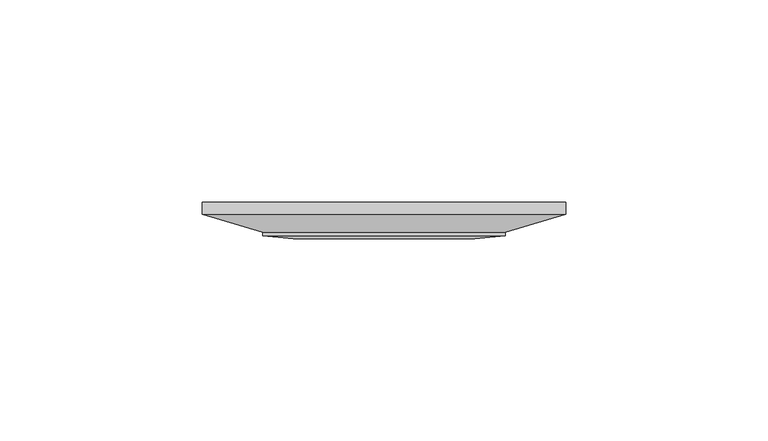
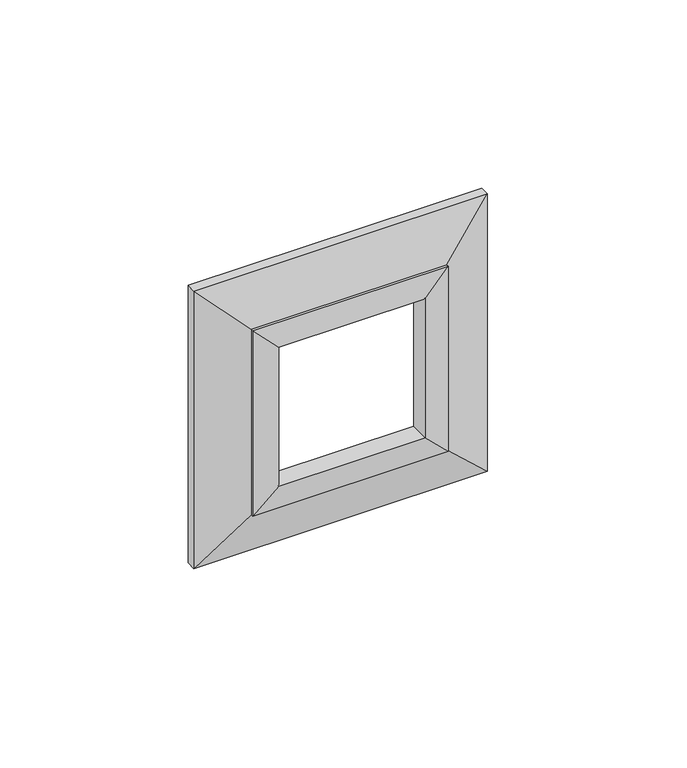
"""IFC4 building model written with IfcOpenShell, lengths in millimetres: proxy geometry."""

from ifc_helpers import new_model, si_unit, origin, place, context, project, spatial, faceted_brep, source, transform, mapped, element, save


def electrical_fixtures_7a4067e5(model_context):
    return source(origin(), model_context, "Body", "Brep", [
        faceted_brep([(22.5, -3.0, -22.5), (22.5, -9.0, -22.5), (22.5, -9.0, 22.5), (22.5, -3.0, 22.5), (-22.5, -9.0, 22.5), (-22.5, -3.0, 22.5), (-22.5, -9.0, -22.5), (-22.5, -3.0, -22.5), (45.0, 0.0, -45.0), (-45.0, 0.0, -45.0), (-45.0, 0.0, 45.0), (45.0, 0.0, 45.0), (35.5, 0.0, 35.5), (-35.5, 0.0, 35.5), (-35.5, 0.0, -35.5), (35.5, 0.0, -35.5), (45.0, -3.0228771, -45.0), (45.0, -3.0228771, 45.0), (30.0116526, -7.5, -30.0116526), (30.0116526, -7.5, 30.0116526), (30.0116526, -8.3, -30.0116526), (30.0116526, -8.3, 30.0116526), (-45.0, -3.0228771, 45.0), (-30.0116526, -7.5, 30.0116526), (-30.0116526, -8.3, 30.0116526), (-45.0, -3.0228771, -45.0), (-30.0116526, -7.5, -30.0116526), (-30.0116526, -8.3, -30.0116526), (35.5, -3.0, -35.5), (35.5, -3.0, 35.5), (-35.5, -3.0, 35.5), (-35.5, -3.0, -35.5)], [[[0, 1, 2, 3]], [[3, 2, 4, 5]], [[5, 4, 6, 7]], [[7, 6, 1, 0]], [[8, 9, 10, 11], [12, 13, 14, 15]], [[16, 8, 11, 17]], [[18, 16, 17, 19]], [[20, 18, 19, 21]], [[1, 20, 21, 2]], [[17, 11, 10, 22]], [[19, 17, 22, 23]], [[21, 19, 23, 24]], [[2, 21, 24, 4]], [[22, 10, 9, 25]], [[23, 22, 25, 26]], [[24, 23, 26, 27]], [[4, 24, 27, 6]], [[25, 9, 8, 16]], [[26, 25, 16, 18]], [[27, 26, 18, 20]], [[6, 27, 20, 1]], [[15, 28, 29, 12]], [[12, 29, 30, 13]], [[13, 30, 31, 14]], [[28, 31, 30, 29], [3, 5, 7, 0]], [[14, 31, 28, 15]]]),
    ])


if __name__ == "__main__":
    model = new_model("IFC4")
    model_context = context("Model", 3, world=origin())
    ifc_project = project(units=[si_unit("LENGTHUNIT", "METRE", prefix="MILLI")], contexts=[model_context])
    site = spatial("IfcSite", under=ifc_project)
    building = spatial("IfcBuilding", under=site)
    placement = place(None, origin())
    electrical_fixtures_shape = electrical_fixtures_7a4067e5(model_context)
    element("IfcBuildingElementProxy", 1, Name="Electrical Fixtures", at=placement, inside=building, context=model_context, shape_type="MappedRepresentation", body=[
        mapped(electrical_fixtures_shape, transform((0.0, 0.0, 0.0), x_axis=(1.0, 0.0, 0.0), y_axis=(0.0, 1.0, 0.0), z_axis=(0.0, 0.0, 1.0))),
    ])
    save(model, "model.ifc")
